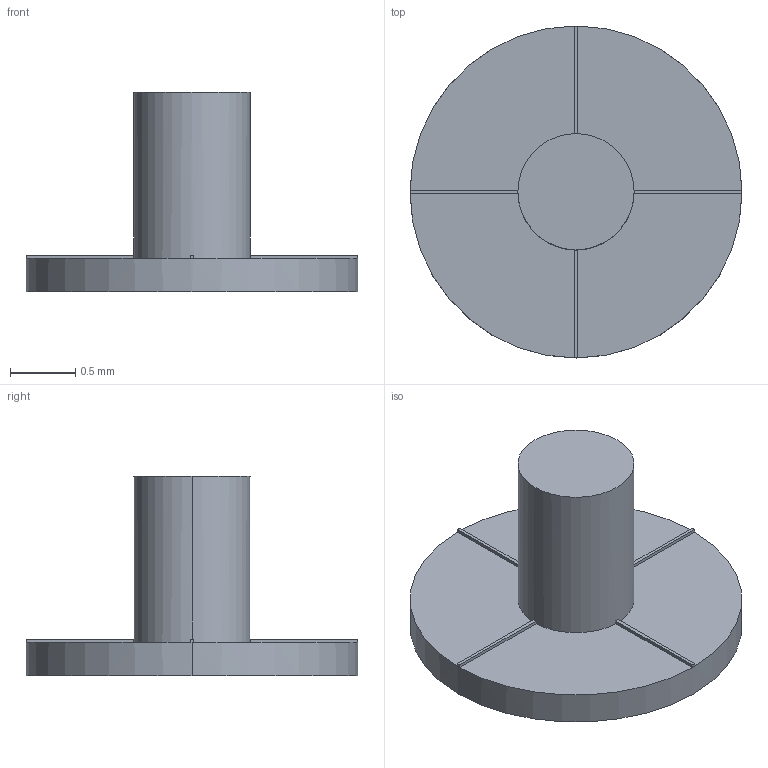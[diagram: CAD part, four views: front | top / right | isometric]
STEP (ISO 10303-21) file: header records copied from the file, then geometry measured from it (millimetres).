
FILE_DESCRIPTION((''),'2;1');
FILE_NAME('CONTACT_SIM_DUMMY-22','2020-09-24T20:58:14',('ccole'),(''),'CREO PARAMETRIC BY PTC INC, 2019292','CREO PARAMETRIC BY PTC INC, 2019292','');
FILE_SCHEMA(('CONFIG_CONTROL_DESIGN'));
Length unit declared in the file: inch
Products named in the file (1): CONTACT_SIM_DUMMY-22
Bounding box: 2.54 x 2.54 x 1.52 mm (x, y, z)
Volume: 2.1 mm3; surface area: 15.9 mm2
Topology: 1 solids, 1 shells, 26 faces, 64 edges, 40 vertices
Faces by surface type: plane 22, cylinder 4
Entity records: 802 total; most frequent: CARTESIAN_POINT 142, DIRECTION 128, ORIENTED_EDGE 128, EDGE_CURVE 64, AXIS2_PLACEMENT_3D 44, VECTOR 40, LINE 40, VERTEX_POINT 40
